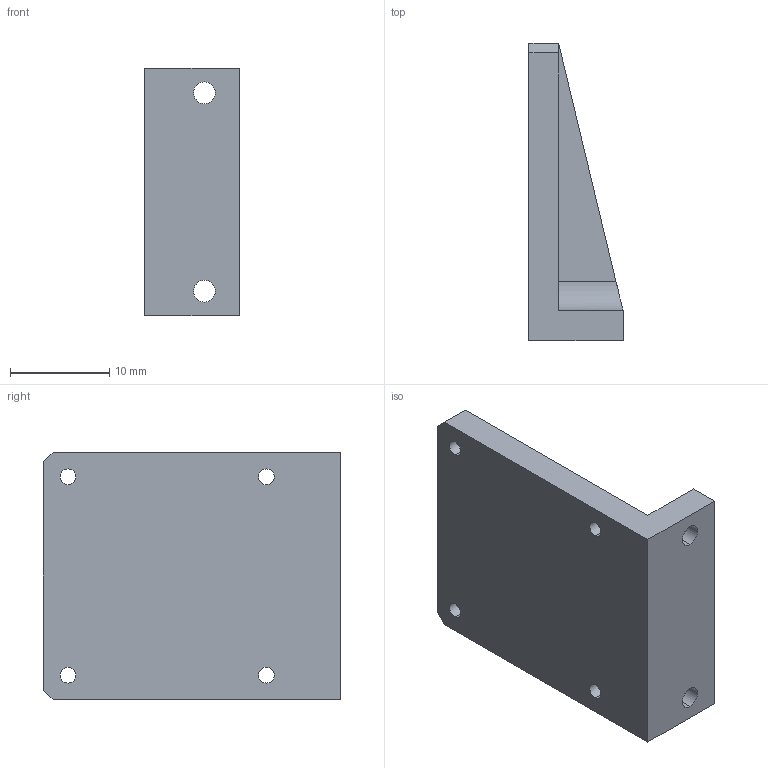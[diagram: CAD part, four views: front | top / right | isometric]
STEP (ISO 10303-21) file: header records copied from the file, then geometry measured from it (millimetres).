
FILE_DESCRIPTION (( 'STEP AP203' ), '1' );
FILE_NAME ('PJK19.STEP', '2022-04-10T00:56:05', ( '' ), ( '' ), 'SwSTEP 2.0', 'SolidWorks 2017', '' );
FILE_SCHEMA (( 'CONFIG_CONTROL_DESIGN' ));
Length unit declared in the file: millimetre
Products named in the file (1): PJK19
Bounding box: 9.5 x 30 x 25 mm (x, y, z)
Volume: 3036.8 mm3; surface area: 2411.6 mm2
Topology: 1 solids, 1 shells, 35 faces, 89 edges, 58 vertices
Faces by surface type: cylinder 18, plane 17
Entity records: 1166 total; most frequent: DIRECTION 193, CARTESIAN_POINT 189, ORIENTED_EDGE 178, EDGE_CURVE 89, AXIS2_PLACEMENT_3D 70, VERTEX_POINT 58, LINE 53, VECTOR 53
